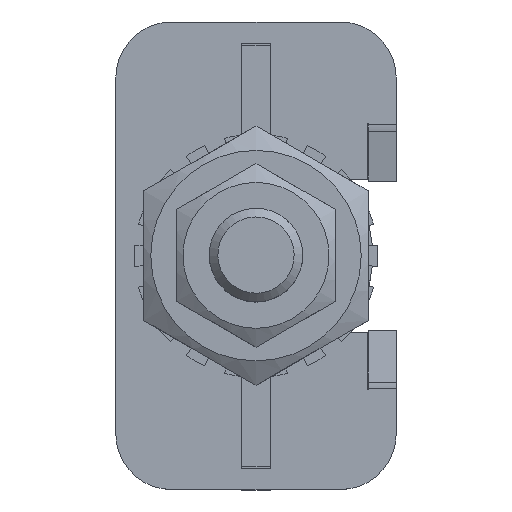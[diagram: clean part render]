
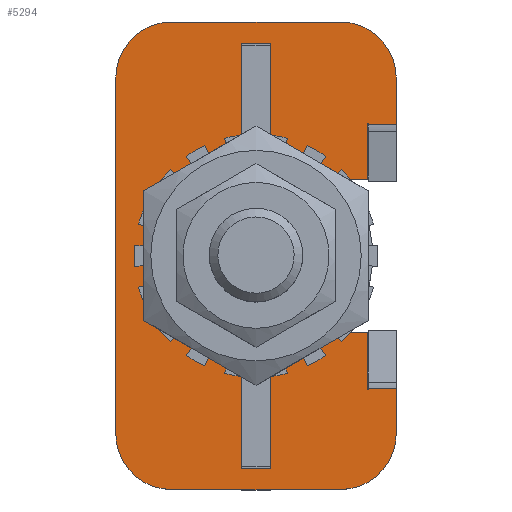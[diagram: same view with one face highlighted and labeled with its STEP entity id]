
A CAD part, top view. The second image highlights one B-rep face of the part: STEP entity #5294.
In plain terms, the highlighted planar face has unit normal (0, 0, 1) as drawn and (0, 0, -1) by its records, which use the part's own axes.
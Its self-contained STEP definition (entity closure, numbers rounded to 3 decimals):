
#201=FACE_BOUND('',#1133,.T.);
#202=FACE_BOUND('',#1134,.T.);
#410=CIRCLE('',#5717,8.2);
#411=CIRCLE('',#5718,6.);
#412=CIRCLE('',#5719,6.);
#413=CIRCLE('',#5720,6.);
#414=CIRCLE('',#5721,6.);
#771=FACE_OUTER_BOUND('',#1132,.T.);
#1132=EDGE_LOOP('',(#4021,#4022,#4023,#4024,#4025,#4026,#4027,#4028,#4029,
#4030,#4031,#4032,#4033,#4034,#4035,#4036,#4037,#4038,#4039,#4040));
#1133=EDGE_LOOP('',(#4041,#4042,#4043,#4044));
#1134=EDGE_LOOP('',(#4045,#4046,#4047,#4048));
#1495=LINE('',#8332,#1937);
#1506=LINE('',#8355,#1948);
#1507=LINE('',#8358,#1949);
#1512=LINE('',#8367,#1954);
#1532=LINE('',#8418,#1974);
#1534=LINE('',#8422,#1976);
#1535=LINE('',#8426,#1977);
#1536=LINE('',#8428,#1978);
#1537=LINE('',#8430,#1979);
#1538=LINE('',#8432,#1980);
#1539=LINE('',#8434,#1981);
#1540=LINE('',#8436,#1982);
#1541=LINE('',#8440,#1983);
#1542=LINE('',#8444,#1984);
#1543=LINE('',#8448,#1985);
#1544=LINE('',#8452,#1986);
#1545=LINE('',#8454,#1987);
#1546=LINE('',#8456,#1988);
#1547=LINE('',#8457,#1989);
#1548=LINE('',#8460,#1990);
#1549=LINE('',#8462,#1991);
#1550=LINE('',#8464,#1992);
#1551=LINE('',#8465,#1993);
#1937=VECTOR('',#6656,3.);
#1948=VECTOR('',#6679,0.1);
#1949=VECTOR('',#6682,0.1);
#1954=VECTOR('',#6689,6.102);
#1974=VECTOR('',#6723,4.798);
#1976=VECTOR('',#6727,11.9);
#1977=VECTOR('',#6730,11.9);
#1978=VECTOR('',#6731,5.9);
#1979=VECTOR('',#6732,0.1);
#1980=VECTOR('',#6733,0.1);
#1981=VECTOR('',#6734,3.);
#1982=VECTOR('',#6735,5.);
#1983=VECTOR('',#6738,18.);
#1984=VECTOR('',#6741,38.);
#1985=VECTOR('',#6744,18.);
#1986=VECTOR('',#6747,3.2);
#1987=VECTOR('',#6748,9.9);
#1988=VECTOR('',#6749,3.2);
#1989=VECTOR('',#6750,9.9);
#1990=VECTOR('',#6751,3.2);
#1991=VECTOR('',#6752,9.9);
#1992=VECTOR('',#6753,3.2);
#1993=VECTOR('',#6754,9.9);
#2395=VERTEX_POINT('',#8311);
#2398=VERTEX_POINT('',#8319);
#2407=VERTEX_POINT('',#8353);
#2408=VERTEX_POINT('',#8357);
#2411=VERTEX_POINT('',#8365);
#2435=VERTEX_POINT('',#8417);
#2436=VERTEX_POINT('',#8421);
#2437=VERTEX_POINT('',#8423);
#2438=VERTEX_POINT('',#8425);
#2439=VERTEX_POINT('',#8427);
#2440=VERTEX_POINT('',#8429);
#2441=VERTEX_POINT('',#8431);
#2442=VERTEX_POINT('',#8433);
#2443=VERTEX_POINT('',#8435);
#2444=VERTEX_POINT('',#8437);
#2445=VERTEX_POINT('',#8439);
#2446=VERTEX_POINT('',#8441);
#2447=VERTEX_POINT('',#8443);
#2448=VERTEX_POINT('',#8445);
#2449=VERTEX_POINT('',#8447);
#2450=VERTEX_POINT('',#8450);
#2451=VERTEX_POINT('',#8451);
#2452=VERTEX_POINT('',#8453);
#2453=VERTEX_POINT('',#8455);
#2454=VERTEX_POINT('',#8458);
#2455=VERTEX_POINT('',#8459);
#2456=VERTEX_POINT('',#8461);
#2457=VERTEX_POINT('',#8463);
#2979=EDGE_CURVE('',#2398,#2395,#1495,.T.);
#2990=EDGE_CURVE('',#2395,#2407,#1506,.T.);
#2991=EDGE_CURVE('',#2407,#2408,#1507,.T.);
#2996=EDGE_CURVE('',#2411,#2408,#1512,.T.);
#3021=EDGE_CURVE('',#2398,#2435,#1532,.T.);
#3023=EDGE_CURVE('',#2436,#2411,#1534,.T.);
#3024=EDGE_CURVE('',#2437,#2436,#410,.T.);
#3025=EDGE_CURVE('',#2438,#2437,#1535,.T.);
#3026=EDGE_CURVE('',#2439,#2438,#1536,.T.);
#3027=EDGE_CURVE('',#2439,#2440,#1537,.T.);
#3028=EDGE_CURVE('',#2440,#2441,#1538,.T.);
#3029=EDGE_CURVE('',#2441,#2442,#1539,.T.);
#3030=EDGE_CURVE('',#2443,#2442,#1540,.T.);
#3031=EDGE_CURVE('',#2444,#2443,#411,.T.);
#3032=EDGE_CURVE('',#2445,#2444,#1541,.T.);
#3033=EDGE_CURVE('',#2446,#2445,#412,.T.);
#3034=EDGE_CURVE('',#2447,#2446,#1542,.T.);
#3035=EDGE_CURVE('',#2448,#2447,#413,.T.);
#3036=EDGE_CURVE('',#2449,#2448,#1543,.T.);
#3037=EDGE_CURVE('',#2435,#2449,#414,.T.);
#3038=EDGE_CURVE('',#2450,#2451,#1544,.T.);
#3039=EDGE_CURVE('',#2451,#2452,#1545,.T.);
#3040=EDGE_CURVE('',#2452,#2453,#1546,.T.);
#3041=EDGE_CURVE('',#2453,#2450,#1547,.T.);
#3042=EDGE_CURVE('',#2454,#2455,#1548,.T.);
#3043=EDGE_CURVE('',#2455,#2456,#1549,.T.);
#3044=EDGE_CURVE('',#2456,#2457,#1550,.T.);
#3045=EDGE_CURVE('',#2457,#2454,#1551,.T.);
#4021=ORIENTED_EDGE('',*,*,#2996,.F.);
#4022=ORIENTED_EDGE('',*,*,#3023,.F.);
#4023=ORIENTED_EDGE('',*,*,#3024,.F.);
#4024=ORIENTED_EDGE('',*,*,#3025,.F.);
#4025=ORIENTED_EDGE('',*,*,#3026,.F.);
#4026=ORIENTED_EDGE('',*,*,#3027,.T.);
#4027=ORIENTED_EDGE('',*,*,#3028,.T.);
#4028=ORIENTED_EDGE('',*,*,#3029,.T.);
#4029=ORIENTED_EDGE('',*,*,#3030,.F.);
#4030=ORIENTED_EDGE('',*,*,#3031,.F.);
#4031=ORIENTED_EDGE('',*,*,#3032,.F.);
#4032=ORIENTED_EDGE('',*,*,#3033,.F.);
#4033=ORIENTED_EDGE('',*,*,#3034,.F.);
#4034=ORIENTED_EDGE('',*,*,#3035,.F.);
#4035=ORIENTED_EDGE('',*,*,#3036,.F.);
#4036=ORIENTED_EDGE('',*,*,#3037,.F.);
#4037=ORIENTED_EDGE('',*,*,#3021,.F.);
#4038=ORIENTED_EDGE('',*,*,#2979,.T.);
#4039=ORIENTED_EDGE('',*,*,#2990,.T.);
#4040=ORIENTED_EDGE('',*,*,#2991,.T.);
#4041=ORIENTED_EDGE('',*,*,#3038,.T.);
#4042=ORIENTED_EDGE('',*,*,#3039,.T.);
#4043=ORIENTED_EDGE('',*,*,#3040,.T.);
#4044=ORIENTED_EDGE('',*,*,#3041,.T.);
#4045=ORIENTED_EDGE('',*,*,#3042,.T.);
#4046=ORIENTED_EDGE('',*,*,#3043,.T.);
#4047=ORIENTED_EDGE('',*,*,#3044,.T.);
#4048=ORIENTED_EDGE('',*,*,#3045,.T.);
#5078=PLANE('',#5716);
#5294=ADVANCED_FACE('',(#771,#201,#202),#5078,.F.);
#5716=AXIS2_PLACEMENT_3D('',#8420,#6725,#6726);
#5717=AXIS2_PLACEMENT_3D('',#8424,#6728,#6729);
#5718=AXIS2_PLACEMENT_3D('',#8438,#6736,#6737);
#5719=AXIS2_PLACEMENT_3D('',#8442,#6739,#6740);
#5720=AXIS2_PLACEMENT_3D('',#8446,#6742,#6743);
#5721=AXIS2_PLACEMENT_3D('',#8449,#6745,#6746);
#6656=DIRECTION('',(0.,1.,0.));
#6679=DIRECTION('',(1.,0.,0.));
#6682=DIRECTION('',(0.,1.,0.));
#6689=DIRECTION('',(1.,0.,0.));
#6723=DIRECTION('',(1.,0.,0.));
#6725=DIRECTION('center_axis',(0.,0.,1.));
#6726=DIRECTION('ref_axis',(1.,0.,0.));
#6727=DIRECTION('',(0.,-1.,0.));
#6728=DIRECTION('center_axis',(0.,0.,-1.));
#6729=DIRECTION('ref_axis',(-1.,0.,0.));
#6730=DIRECTION('',(0.,1.,0.));
#6731=DIRECTION('',(1.,0.,0.));
#6732=DIRECTION('',(0.,-1.,0.));
#6733=DIRECTION('',(1.,0.,0.));
#6734=DIRECTION('',(0.,-1.,0.));
#6735=DIRECTION('',(1.,0.,0.));
#6736=DIRECTION('center_axis',(0.,0.,1.));
#6737=DIRECTION('ref_axis',(-1.,0.,0.));
#6738=DIRECTION('',(0.,-1.,0.));
#6739=DIRECTION('center_axis',(0.,0.,1.));
#6740=DIRECTION('ref_axis',(0.,1.,0.));
#6741=DIRECTION('',(-1.,0.,0.));
#6742=DIRECTION('center_axis',(0.,0.,1.));
#6743=DIRECTION('ref_axis',(1.,0.,0.));
#6744=DIRECTION('',(0.,1.,0.));
#6745=DIRECTION('center_axis',(0.,0.,1.));
#6746=DIRECTION('ref_axis',(0.,-1.,0.));
#6747=DIRECTION('',(0.,1.,0.));
#6748=DIRECTION('',(-1.,0.,0.));
#6749=DIRECTION('',(0.,-1.,0.));
#6750=DIRECTION('',(1.,0.,0.));
#6751=DIRECTION('',(0.,1.,0.));
#6752=DIRECTION('',(-1.,0.,0.));
#6753=DIRECTION('',(0.,-1.,0.));
#6754=DIRECTION('',(1.,0.,0.));
#8311=CARTESIAN_POINT('',(14.202,-12.,0.));
#8319=CARTESIAN_POINT('',(14.202,-15.,0.));
#8332=CARTESIAN_POINT('',(14.202,-7.818,0.));
#8353=CARTESIAN_POINT('',(14.302,-12.,0.));
#8355=CARTESIAN_POINT('',(6.849,-12.,0.));
#8357=CARTESIAN_POINT('',(14.302,-11.9,0.));
#8358=CARTESIAN_POINT('',(14.302,-6.318,0.));
#8365=CARTESIAN_POINT('',(8.2,-11.9,0.));
#8367=CARTESIAN_POINT('',(8.2,-11.9,0.));
#8417=CARTESIAN_POINT('',(19.,-15.,0.));
#8418=CARTESIAN_POINT('',(-19.,-15.,0.));
#8420=CARTESIAN_POINT('Origin',(0.,-0.636,
0.));
#8421=CARTESIAN_POINT('',(8.2,0.,0.));
#8422=CARTESIAN_POINT('',(8.2,0.,0.));
#8423=CARTESIAN_POINT('',(-8.2,0.,0.));
#8424=CARTESIAN_POINT('Origin',(0.,0.,0.));
#8425=CARTESIAN_POINT('',(-8.2,-11.9,0.));
#8426=CARTESIAN_POINT('',(-8.2,-11.9,0.));
#8427=CARTESIAN_POINT('',(-14.1,-11.9,0.));
#8428=CARTESIAN_POINT('',(-14.,-11.9,0.));
#8429=CARTESIAN_POINT('',(-14.1,-12.,0.));
#8430=CARTESIAN_POINT('',(-14.1,-6.268,0.));
#8431=CARTESIAN_POINT('',(-14.,-12.,0.));
#8432=CARTESIAN_POINT('',(-7.05,-12.,0.));
#8433=CARTESIAN_POINT('',(-14.,-15.,0.));
#8434=CARTESIAN_POINT('',(-14.,-6.318,0.));
#8435=CARTESIAN_POINT('',(-19.,-15.,0.));
#8436=CARTESIAN_POINT('',(-19.,-15.,0.));
#8437=CARTESIAN_POINT('',(-25.,-9.,0.));
#8438=CARTESIAN_POINT('Origin',(-19.,-9.,0.));
#8439=CARTESIAN_POINT('',(-25.,9.,0.));
#8440=CARTESIAN_POINT('',(-25.,9.,0.));
#8441=CARTESIAN_POINT('',(-19.,15.,0.));
#8442=CARTESIAN_POINT('Origin',(-19.,9.,0.));
#8443=CARTESIAN_POINT('',(19.,15.,0.));
#8444=CARTESIAN_POINT('',(19.,15.,0.));
#8445=CARTESIAN_POINT('',(25.,9.,0.));
#8446=CARTESIAN_POINT('Origin',(19.,9.,0.));
#8447=CARTESIAN_POINT('',(25.,-9.,0.));
#8448=CARTESIAN_POINT('',(25.,-9.,0.));
#8449=CARTESIAN_POINT('Origin',(19.,-9.,0.));
#8450=CARTESIAN_POINT('',(-12.8,-1.6,0.));
#8451=CARTESIAN_POINT('',(-12.8,1.6,0.));
#8452=CARTESIAN_POINT('',(-12.8,0.482,0.));
#8453=CARTESIAN_POINT('',(-22.7,1.6,0.));
#8454=CARTESIAN_POINT('',(-11.35,1.6,0.));
#8455=CARTESIAN_POINT('',(-22.7,-1.6,0.));
#8456=CARTESIAN_POINT('',(-22.7,-1.118,0.));
#8457=CARTESIAN_POINT('',(-6.4,-1.6,0.));
#8458=CARTESIAN_POINT('',(22.7,-1.6,0.));
#8459=CARTESIAN_POINT('',(22.7,1.6,0.));
#8460=CARTESIAN_POINT('',(22.7,0.482,0.));
#8461=CARTESIAN_POINT('',(12.8,1.6,0.));
#8462=CARTESIAN_POINT('',(6.4,1.6,0.));
#8463=CARTESIAN_POINT('',(12.8,-1.6,0.));
#8464=CARTESIAN_POINT('',(12.8,-1.118,0.));
#8465=CARTESIAN_POINT('',(11.35,-1.6,0.));
